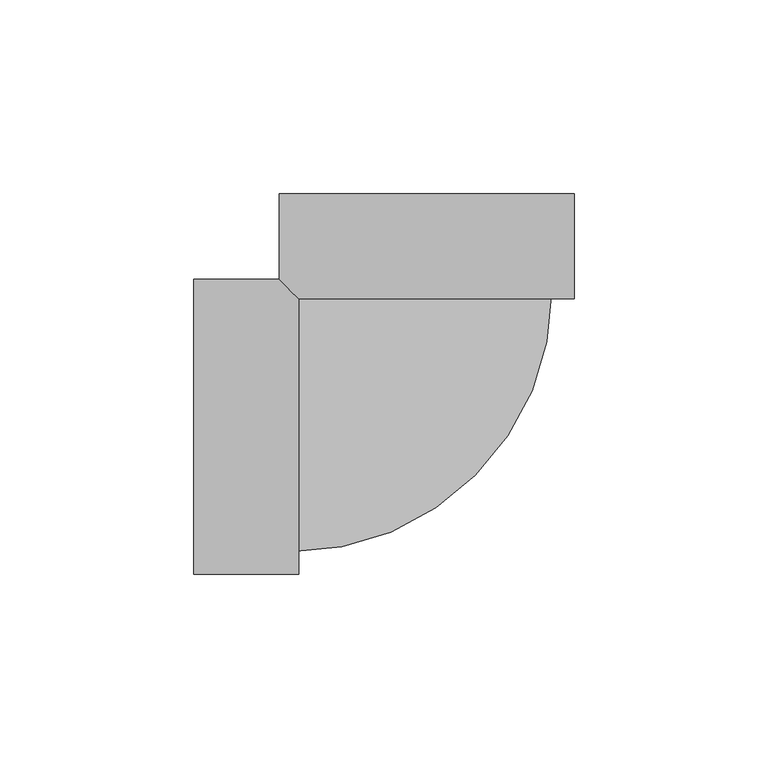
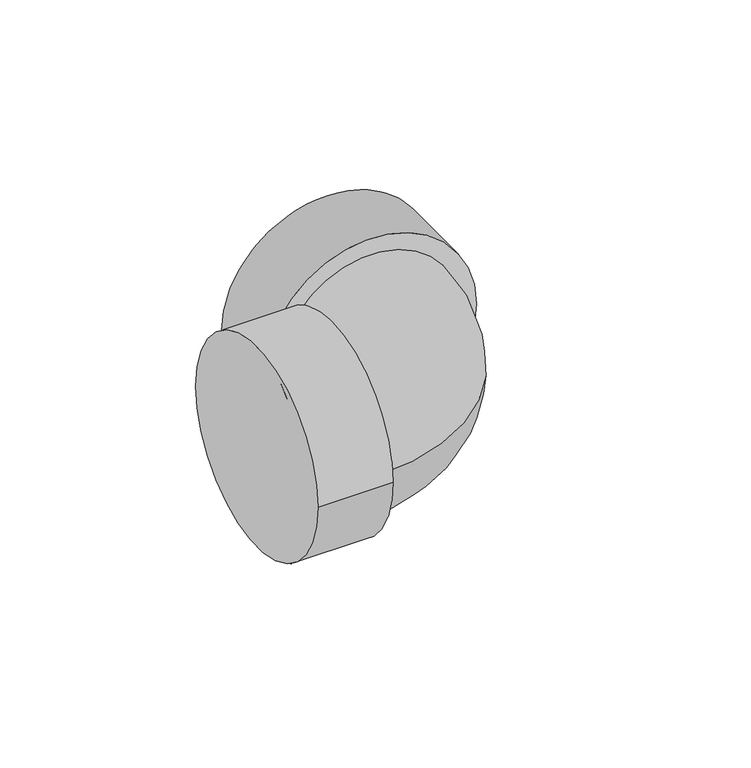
"""IFC4 building model written with IfcOpenShell, lengths in millimetres: pipe fitting geometry, 01011001 : Codos 90º."""

from ifc_helpers import new_model, si_unit, point, frame, origin, place, context, project, spatial, circle_curve, ellipse_curve, trimmed, source, transform, mapped, element, save
from ifc_brep_helpers import plane_surface, cylinder_surface, revolved_surface, advanced_brep


def pipe_fitting_980025fa(model_context):
    return source(origin(), model_context, "Body", "AdvancedBrep", [
        advanced_brep(
        [(-38.0, 60.0, 0.0), (38.0, 60.0, 0.0), (-33.0, 33.0, -18.8414437), (38.0, 33.0, 0.0), (-33.0, 33.0, 18.8414437), (-38.0, 38.0, 0.0), (-60.0, -38.0, 0.0), (-60.0, 38.0, 0.0), (-33.0, -38.0, 0.0)],
        [
            (0, 1, circle_curve(frame((0.0, 60.0, 0.0), z_axis=(0.0, 1.0, 0.0), x_axis=(1.0, 0.0, 0.0)), 38.0)),
            (1, 0, circle_curve(frame((0.0, 60.0, 0.0), z_axis=(0.0, 1.0, 0.0), x_axis=(1.0, 0.0, 0.0)), 38.0)),
            (2, 3, circle_curve(frame((0.0, 33.0, 0.0), z_axis=(0.0, -1.0, 0.0), x_axis=(1.0, 0.0, 0.0)), 38.0)),
            (3, 4, circle_curve(frame((0.0, 33.0, 0.0), z_axis=(0.0, -1.0, 0.0), x_axis=(1.0, 0.0, 0.0)), 38.0)),
            (4, 2),
            (0, 5),
            (5, 4, ellipse_curve(frame((0.0, 0.0, 0.0), z_axis=(0.7071067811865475, 0.7071067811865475, 0.0), x_axis=(-0.7071067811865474, 0.7071067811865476, 0.0)), 53.7401154, 38.0)),
            (3, 1),
            (2, 5, ellipse_curve(frame((0.0, 0.0, 0.0), z_axis=(0.7071067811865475, 0.7071067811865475, 0.0), x_axis=(-0.7071067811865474, 0.7071067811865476, 0.0)), 53.7401154, 38.0)),
            (6, 7, circle_curve(frame((-60.0, 0.0, 0.0), z_axis=(-1.0, 0.0, 0.0), x_axis=(0.0, 1.0, 0.0)), 38.0)),
            (7, 6, circle_curve(frame((-60.0, 0.0, 0.0), z_axis=(-1.0, 0.0, 0.0), x_axis=(0.0, 1.0, 0.0)), 38.0)),
            (8, 2, circle_curve(frame((-33.0, 0.0, 0.0), z_axis=(1.0, 0.0, 0.0), x_axis=(0.0, 1.0, 0.0)), 38.0)),
            (4, 8, circle_curve(frame((-33.0, 0.0, 0.0), z_axis=(1.0, 0.0, 0.0), x_axis=(0.0, 1.0, 0.0)), 38.0)),
            (6, 8),
            (5, 7),
        ],
        [
            plane_surface(frame((0.0, 60.0, 0.0), z_axis=(0.0, 1.0, 0.0), x_axis=(0.0, 0.0, 1.0))),
            plane_surface(frame((0.0, 33.0, 0.0), z_axis=(0.0, -1.0, 0.0), x_axis=(0.0, 0.0, 1.0))),
            cylinder_surface(frame((0.0, 60.0, 0.0), z_axis=(0.0, 1.0, 0.0), x_axis=(1.0, 0.0, 0.0)), 38.0),
            plane_surface(frame((-60.0, 0.0, 0.0), z_axis=(-1.0, 0.0, 0.0), x_axis=(0.0, 0.0, 1.0))),
            plane_surface(frame((-33.0, 0.0, 0.0), z_axis=(1.0, 0.0, 0.0), x_axis=(0.0, 0.0, 1.0))),
            cylinder_surface(frame((-60.0, 0.0, 0.0), z_axis=(-1.0, 0.0, 0.0), x_axis=(0.0, 1.0, 0.0)), 38.0),
        ],
        [
            (0, [[1, 2]]),
            (1, [[3, 4, 5]]),
            (2, [[-1, 6, 7, -4, 8]]),
            (2, [[-2, -8, -3, 9, -6]]),
            (3, [[10, 11]]),
            (4, [[12, -5, 13]]),
            (5, [[-10, 14, -13, -7, 15]]),
            (5, [[-11, -15, -9, -12, -14]]),
        ],
    ),
        advanced_brep(
        [(-32.3, 35.0, 0.0), (32.3, 35.0, 0.0), (-35.0, 32.3, 0.0), (-35.0, -32.3, 0.0)],
        [
            (0, 1, circle_curve(frame((0.0, 35.0, 0.0), z_axis=(0.0, 1.0, 0.0), x_axis=(1.0, 0.0, 0.0)), 32.3)),
            (1, 0, circle_curve(frame((0.0, 35.0, 0.0), z_axis=(0.0, 1.0, 0.0), x_axis=(1.0, 0.0, 0.0)), 32.3)),
            (2, 3, circle_curve(frame((-35.0, 0.0, 0.0), z_axis=(-1.0, 0.0, 0.0), x_axis=(0.0, -1.0, 0.0)), 32.3)),
            (3, 2, circle_curve(frame((-35.0, 0.0, 0.0), z_axis=(-1.0, 0.0, 0.0), x_axis=(0.0, -1.0, 0.0)), 32.3)),
            (3, 1, circle_curve(frame((-35.0, 35.0, 0.0), z_axis=(0.0, 0.0, 1.0), x_axis=(1.0, 0.0, 0.0)), 67.3)),
            (0, 2, circle_curve(frame((-35.0, 35.0, 0.0), z_axis=(0.0, 0.0, -1.0), x_axis=(1.0, 0.0, 0.0)), 2.7)),
        ],
        [
            plane_surface(frame((0.0, 35.0, 0.0), z_axis=(0.0, 1.0, 0.0), x_axis=(0.0, 0.0, 1.0))),
            plane_surface(frame((-35.0, 0.0, 0.0), z_axis=(-1.0, 0.0, 0.0), x_axis=(0.0, 0.0, 1.0))),
            revolved_surface(trimmed(ellipse_curve(frame((0.0, 35.0, 0.0), z_axis=(0.0, 1.0, 0.0), x_axis=(1.0, 0.0, 0.0)), 32.3, 32.3), [point((-32.3, 35.0, 0.0))], [point((32.3, 35.0, 0.0))], True, "CARTESIAN"), (-35.0, 35.0, 0.0), (0.0, 0.0, -1.0)),
            revolved_surface(trimmed(ellipse_curve(frame((0.0, 35.0, 0.0), z_axis=(0.0, 1.0, 0.0), x_axis=(1.0, 0.0, 0.0)), 32.3, 32.3), [point((32.3, 35.0, 0.0))], [point((-32.3, 35.0, 0.0))], True, "CARTESIAN"), (-35.0, 35.0, 0.0), (0.0, 0.0, -1.0)),
        ],
        [
            (0, [[1, 2]]),
            (1, [[3, 4]]),
            (2, [[5, -1, 6, -4]]),
            (3, [[-6, -2, -5, -3]]),
        ],
    ),
    ])


if __name__ == "__main__":
    model = new_model("IFC4")
    model_context = context("Model", 3, world=origin())
    ifc_project = project(units=[si_unit("LENGTHUNIT", "METRE", prefix="MILLI")], contexts=[model_context])
    site = spatial("IfcSite", under=ifc_project)
    building = spatial("IfcBuilding", under=site)
    placement = place(None, origin())
    pipe_fitting_shape = pipe_fitting_980025fa(model_context)
    element("IfcPipeFitting", 1, ObjectType="01011001 : Codos 90º", at=placement, inside=building, context=model_context, shape_type="MappedRepresentation", body=[
        mapped(pipe_fitting_shape, transform((0.0, 0.0, 0.0), x_axis=(1.0, 0.0, 0.0), y_axis=(0.0, 1.0, 0.0), z_axis=(0.0, 0.0, 1.0))),
    ])
    save(model, "model.ifc")
